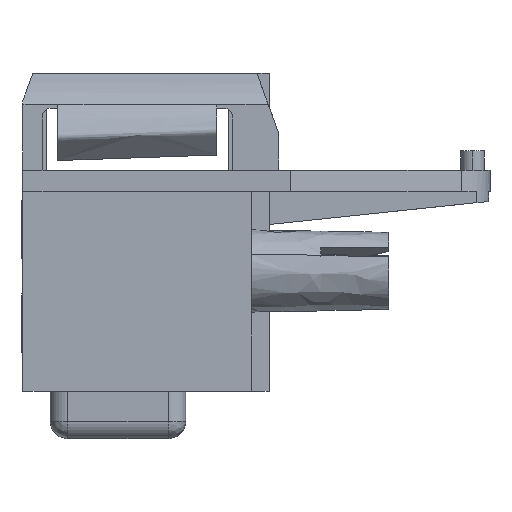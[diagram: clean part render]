
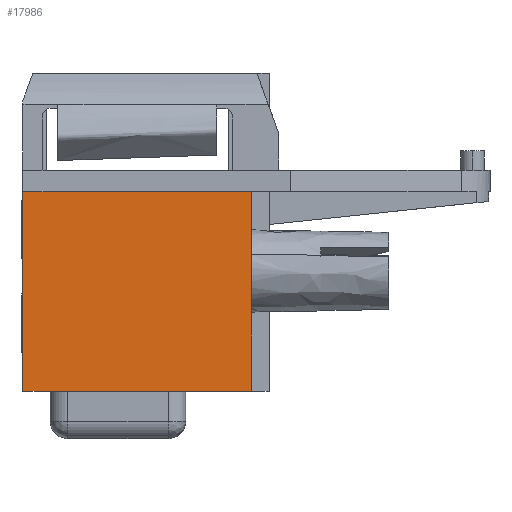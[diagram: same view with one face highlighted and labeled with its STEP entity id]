
A CAD part, left-side view. The second image highlights one B-rep face of the part: STEP entity #17986.
In plain terms, the highlighted planar face has unit normal (-1, 0, 0).
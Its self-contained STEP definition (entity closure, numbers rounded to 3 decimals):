
#3391=CARTESIAN_POINT(' ',(-11.35,0.,-11.4));
#3392=VERTEX_POINT(' ',#3391);
#3406=CARTESIAN_POINT(' ',(-11.35,0.,-1.1));
#3411=DIRECTION(' ',(0.,0.,-1.));
#3416=VECTOR(' ',#3411,1.);
#3421=LINE('',#3406,#3416);
#3426=CARTESIAN_POINT(' ',(-11.35,0.,-1.1));
#3427=VERTEX_POINT(' ',#3426);
#3431=EDGE_CURVE(' ',#3427,#3392,#3421,.T.);
#16291=CARTESIAN_POINT(' ',(-11.35,-11.8,-11.4));
#16292=VERTEX_POINT(' ',#16291);
#16306=CARTESIAN_POINT(' ',(-11.35,-11.8,-11.4));
#16311=DIRECTION(' ',(0.,1.,0.));
#16316=VECTOR(' ',#16311,1.);
#16321=LINE('',#16306,#16316);
#16326=EDGE_CURVE(' ',#16292,#3392,#16321,.T.);
#17876=DIRECTION(' ',(-1.,-0.,0.));
#17881=CARTESIAN_POINT(' ',(-11.35,-11.8,-1.1));
#17886=DIRECTION(' ',(0.,1.,0.));
#17891=AXIS2_PLACEMENT_3D(' ',#17881,#17876,#17886);
#17896=PLANE('',#17891);
#17901=CARTESIAN_POINT(' ',(-11.35,-11.8,-1.1));
#17906=DIRECTION(' ',(0.,0.,-1.));
#17911=VECTOR(' ',#17906,1.);
#17916=LINE('',#17901,#17911);
#17921=CARTESIAN_POINT(' ',(-11.35,-11.8,-1.1));
#17922=VERTEX_POINT(' ',#17921);
#17926=EDGE_CURVE(' ',#17922,#16292,#17916,.T.);
#17931=ORIENTED_EDGE(' ',*,*,#17926,.F.);
#17936=CARTESIAN_POINT(' ',(-11.35,-11.8,-1.1));
#17941=DIRECTION(' ',(0.,1.,0.));
#17946=VECTOR(' ',#17941,1.);
#17951=LINE('',#17936,#17946);
#17956=EDGE_CURVE(' ',#17922,#3427,#17951,.T.);
#17961=ORIENTED_EDGE(' ',*,*,#17956,.T.);
#17966=ORIENTED_EDGE(' ',*,*,#3431,.T.);
#17971=ORIENTED_EDGE(' ',*,*,#16326,.F.);
#17976=EDGE_LOOP(' ',(#17931,#17961,#17966,#17971));
#17981=FACE_OUTER_BOUND(' ',#17976,.T.);
#17986=ADVANCED_FACE('',(#17981),#17896,.T.);
